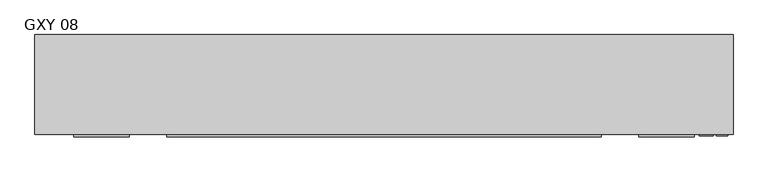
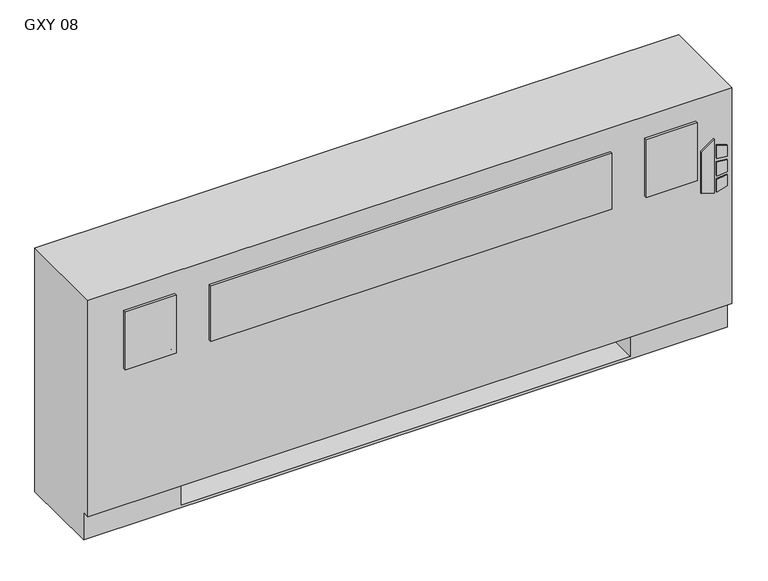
"""IFC4 building model written with IfcOpenShell, lengths in millimetres: proxy geometry, Vertical_Fan_Coil_Unit_-_GXY_-_IEC_-_2-Pipe_FS-FR_LH_2022 : GXY 08."""

from ifc_helpers import new_model, si_unit, point, frame, frame_2d, origin, place, context, project, spatial, polyline, circle_curve, trimmed, segment, composite_curve, outline, extrude, source, transform, mapped, element, save
from ifc_brep_helpers import plane_surface, revolved_surface, advanced_brep


def gxy_08_44ee7bc8(model_context):
    return source(origin(), model_context, "Body", "SolidModel", [
        extrude(outline(polyline([(391.6086829, 874.7868862), (381.6606126, 906.9602728), (523.831537, 906.9602728), (500.8095309, 874.7868862), (391.6086829, 874.7868862)])), frame((0.0, 12.7, 0.0), z_axis=(0.0, 1.0, 0.0), x_axis=(0.0, 0.0, 1.0)), (0.0, 0.0, 1.0), 3.175),
        extrude(outline(polyline([(470.6079683, 913.7186058), (467.4055757, 939.8), (496.6344168, 939.8), (504.6988318, 913.7186058), (470.6079683, 913.7186058)])), frame((0.0, 12.7, 0.0), z_axis=(0.0, 1.0, 0.0), x_axis=(0.0, 0.0, 1.0)), (0.0, 0.0, 1.0), 3.175),
        extrude(outline(polyline([(418.7444414, 939.8), (415.0789404, 913.7186058), (381.6606126, 913.7186058), (390.2948498, 939.8), (418.7444414, 939.8)])), frame((0.0, 12.7, 0.0), z_axis=(0.0, 1.0, 0.0), x_axis=(0.0, 0.0, 1.0)), (0.0, 0.0, 1.0), 3.175),
        extrude(outline(polyline([(458.0596028, 939.8), (460.3414292, 913.7186058), (424.4038806, 913.7186058), (427.1451456, 939.8), (458.0596028, 939.8)])), frame((0.0, 12.7, 0.0), z_axis=(0.0, 1.0, 0.0), x_axis=(0.0, 0.0, 1.0)), (0.0, 0.0, 1.0), 3.175),
        extrude(outline(polyline([(-431.8, 9.525), (-558.8, 9.525), (-558.8, 15.875), (-431.8, 15.875), (-431.8, 9.525)])), frame((0.0, 0.0, 431.8), z_axis=(0.0, 0.0, 1.0), x_axis=(1.0, 0.0, 0.0)), (0.0, 0.0, 1.0), 152.4),
        extrude(outline(polyline([(650.875, 9.525), (-346.075, 9.525), (-346.075, 15.875), (650.875, 15.875), (650.875, 9.525)])), frame((0.0, 0.0, 431.8), z_axis=(0.0, 0.0, 1.0), x_axis=(1.0, 0.0, 0.0)), (0.0, 0.0, 1.0), 146.05),
        extrude(outline(polyline([(863.6, 9.525), (736.6, 9.525), (736.6, 15.875), (863.6, 15.875), (863.6, 9.525)])), frame((0.0, 0.0, 431.8), z_axis=(0.0, 0.0, 1.0), x_axis=(1.0, 0.0, 0.0)), (0.0, 0.0, 1.0), 152.4),
        extrude(outline(polyline([(711.2, 81.534), (711.2, 223.266), (831.85, 223.266), (831.85, 81.534), (711.2, 81.534)])), frame((0.0, 0.0, 327.025), z_axis=(0.0, 0.0, 1.0), x_axis=(1.0, 0.0, 0.0)), (0.0, 0.0, 1.0), 260.35),
        extrude(outline(composite_curve([segment(trimmed(circle_curve(frame_2d((78.9432, 398.5514)), 7.9375), [point((78.9432, 406.4889))], [point((78.9432, 390.6139))], False, "CARTESIAN"), True, "CONTINUOUS"), segment(trimmed(circle_curve(frame_2d((78.9432, 398.5514)), 7.9375), [point((78.9432, 390.6139))], [point((78.9432, 406.4889))], False, "CARTESIAN"), True, "CONTINUOUS")], self_intersect=False)), frame((-457.2, 0.0, 0.0), z_axis=(1.0, 0.0, 0.0), x_axis=(0.0, 1.0, 0.0)), (0.0, 0.0, 1.0), 50.8),
        extrude(outline(composite_curve([segment(trimmed(circle_curve(frame_2d((155.9052, 537.3878)), 7.9375), [point((155.9052, 545.3253))], [point((155.9052, 529.4503))], False, "CARTESIAN"), True, "CONTINUOUS"), segment(trimmed(circle_curve(frame_2d((155.9052, 537.3878)), 7.9375), [point((155.9052, 529.4503))], [point((155.9052, 545.3253))], False, "CARTESIAN"), True, "CONTINUOUS")], self_intersect=False)), frame((-457.2, 0.0, 0.0), z_axis=(1.0, 0.0, 0.0), x_axis=(0.0, 1.0, 0.0)), (0.0, 0.0, 1.0), 50.8),
        advanced_brep(
        [(952.5, 244.475, 641.35), (-647.7, 244.475, 641.35), (-647.7, 15.875, 641.35), (952.5, 15.875, 641.35), (-647.7, 244.475, 0.0), (952.5, 244.475, 0.0), (952.5, 34.925, 0.0), (-647.7, 34.925, 0.0), (711.2, 244.475, 73.025), (939.8, 244.475, 73.025), (939.8, 244.475, 628.65), (711.2, 244.475, 628.65), (711.2, 244.475, 418.0400565), (739.775, 244.475, 418.0400565), (739.775, 244.475, 388.4099435), (711.2, 244.475, 388.4099435), (711.2, 244.475, 290.5125), (739.775, 244.475, 290.5125), (739.775, 244.475, 261.9375), (711.2, 244.475, 261.9375), (711.2, 244.475, 119.0625), (739.775, 244.475, 119.0625), (739.775, 244.475, 90.4875), (711.2, 244.475, 90.4875), (-406.4, 244.475, 628.65), (-635.0, 244.475, 628.65), (-635.0, 244.475, 73.025), (-406.4, 244.475, 73.025), (-406.4, 244.475, 90.4875), (-434.975, 244.475, 90.4875), (-434.975, 244.475, 119.0625), (-406.4, 244.475, 119.0625), (-406.4, 244.475, 261.9375), (-434.975, 244.475, 261.9375), (-434.975, 244.475, 290.5125), (-406.4, 244.475, 290.5125), (-406.4, 244.475, 388.4099435), (-434.975, 244.475, 388.4099435), (-434.975, 244.475, 418.0400565), (-406.4, 244.475, 418.0400565), (729.4626, 244.475, 104.775), (718.3374, 244.475, 104.775), (729.4626, 244.475, 403.225), (718.3374, 244.475, 403.225), (729.4626, 244.475, 276.225), (718.3374, 244.475, 276.225), (-413.5374, 244.475, 104.775), (-424.6626, 244.475, 104.775), (-413.5374, 244.475, 276.225), (-424.6626, 244.475, 276.225), (-413.5374, 244.475, 403.225), (-424.6626, 244.475, 403.225), (-647.7, 34.925, 73.025), (-647.7, 15.875, 73.025), (952.5, 15.875, 73.025), (952.5, 34.925, 73.025), (-406.4, 34.925, 73.025), (-406.4, 219.075, 73.025), (711.2, 219.075, 73.025), (711.2, 34.925, 73.025), (711.2, 34.925, 6.35), (-406.4, 34.925, 6.35), (711.2, 41.275, 628.65), (939.8, 41.275, 628.65), (939.8, 41.275, 73.025), (711.2, 41.275, 73.025), (-406.4, 41.275, 628.65), (-406.4, 41.275, 73.025), (-635.0, 41.275, 73.025), (-635.0, 41.275, 628.65), (711.2, 219.075, 73.025), (711.2, 238.125, 90.4875), (711.2, 238.125, 119.0625), (711.2, 238.125, 261.9375), (711.2, 238.125, 290.5125), (711.2, 238.125, 388.4099435), (711.2, 238.125, 418.0400565), (-406.4, 219.075, 73.025), (-406.4, 238.125, 418.0400565), (-406.4, 238.125, 388.4099435), (-406.4, 238.125, 290.5125), (-406.4, 238.125, 261.9375), (-406.4, 238.125, 119.0625), (-406.4, 238.125, 90.4875), (-406.4, 219.075, 6.35), (711.2, 219.075, 6.35), (739.775, 238.125, 90.4875), (739.775, 238.125, 119.0625), (718.3374, 238.125, 104.775), (729.4626, 238.125, 104.775), (739.775, 238.125, 261.9375), (739.775, 238.125, 290.5125), (718.3374, 238.125, 276.225), (729.4626, 238.125, 276.225), (739.775, 238.125, 388.4099435), (739.775, 238.125, 418.0400565), (718.3374, 238.125, 403.225), (729.4626, 238.125, 403.225), (-434.975, 238.125, 119.0625), (-434.975, 238.125, 90.4875), (-424.6626, 238.125, 104.775), (-413.5374, 238.125, 104.775), (-434.975, 238.125, 290.5125), (-434.975, 238.125, 261.9375), (-424.6626, 238.125, 276.225), (-413.5374, 238.125, 276.225), (-434.975, 238.125, 418.0400565), (-434.975, 238.125, 388.4099435), (-424.6626, 238.125, 403.225), (-413.5374, 238.125, 403.225)],
        [
            (0, 1),
            (1, 2),
            (2, 3),
            (3, 0),
            (4, 5),
            (5, 6),
            (6, 7),
            (7, 4),
            (0, 5),
            (4, 1),
            (8, 9),
            (9, 10),
            (10, 11),
            (11, 12),
            (12, 13),
            (13, 14),
            (14, 15),
            (15, 16),
            (16, 17),
            (17, 18),
            (18, 19),
            (19, 20),
            (20, 21),
            (21, 22),
            (22, 23),
            (23, 8),
            (24, 25),
            (25, 26),
            (26, 27),
            (27, 28),
            (28, 29),
            (29, 30),
            (30, 31),
            (31, 32),
            (32, 33),
            (33, 34),
            (34, 35),
            (35, 36),
            (36, 37),
            (37, 38),
            (38, 39),
            (39, 24),
            (40, 41, circle_curve(frame((723.9, 244.475, 104.775), z_axis=(0.0, -1.0, 0.0), x_axis=(-1.0, 0.0, 0.0)), 5.5626)),
            (41, 40, circle_curve(frame((723.9, 244.475, 104.775), z_axis=(0.0, -1.0, 0.0), x_axis=(-1.0, 0.0, 0.0)), 5.5626)),
            (42, 43, circle_curve(frame((723.9, 244.475, 403.225), z_axis=(0.0, -1.0, 0.0), x_axis=(-1.0, 0.0, 0.0)), 5.5626)),
            (43, 42, circle_curve(frame((723.9, 244.475, 403.225), z_axis=(0.0, -1.0, 0.0), x_axis=(-1.0, 0.0, 0.0)), 5.5626)),
            (44, 45, circle_curve(frame((723.9, 244.475, 276.225), z_axis=(0.0, -1.0, 0.0), x_axis=(-1.0, 0.0, 0.0)), 5.5626)),
            (45, 44, circle_curve(frame((723.9, 244.475, 276.225), z_axis=(0.0, -1.0, 0.0), x_axis=(-1.0, 0.0, 0.0)), 5.5626)),
            (46, 47, circle_curve(frame((-419.1, 244.475, 104.775), z_axis=(0.0, -1.0, 0.0), x_axis=(-1.0, 0.0, 0.0)), 5.5626)),
            (47, 46, circle_curve(frame((-419.1, 244.475, 104.775), z_axis=(0.0, -1.0, 0.0), x_axis=(-1.0, 0.0, 0.0)), 5.5626)),
            (48, 49, circle_curve(frame((-419.1, 244.475, 276.225), z_axis=(0.0, -1.0, 0.0), x_axis=(-1.0, 0.0, 0.0)), 5.5626)),
            (49, 48, circle_curve(frame((-419.1, 244.475, 276.225), z_axis=(0.0, -1.0, 0.0), x_axis=(-1.0, 0.0, 0.0)), 5.5626)),
            (50, 51, circle_curve(frame((-419.1, 244.475, 403.225), z_axis=(0.0, -1.0, 0.0), x_axis=(-1.0, 0.0, 0.0)), 5.5626)),
            (51, 50, circle_curve(frame((-419.1, 244.475, 403.225), z_axis=(0.0, -1.0, 0.0), x_axis=(-1.0, 0.0, 0.0)), 5.5626)),
            (7, 52),
            (52, 53),
            (53, 2),
            (53, 54),
            (54, 3),
            (54, 55),
            (55, 6),
            (52, 56),
            (56, 57),
            (57, 58),
            (58, 59),
            (59, 55),
            (59, 60),
            (60, 61),
            (61, 56),
            (62, 63),
            (63, 64),
            (64, 65),
            (65, 62),
            (66, 67),
            (67, 68),
            (68, 69),
            (69, 66),
            (65, 70),
            (70, 8),
            (23, 71),
            (71, 72),
            (72, 20),
            (19, 73),
            (73, 74),
            (74, 16),
            (15, 75),
            (75, 76),
            (76, 12),
            (11, 62),
            (64, 9),
            (63, 10),
            (69, 25),
            (24, 66),
            (68, 26),
            (67, 77),
            (77, 27),
            (39, 78),
            (78, 79),
            (79, 36),
            (35, 80),
            (80, 81),
            (81, 32),
            (31, 82),
            (82, 83),
            (83, 28),
            (57, 84),
            (84, 85),
            (85, 58),
            (85, 60),
            (84, 61),
            (71, 86),
            (86, 87),
            (87, 72),
            (88, 89, circle_curve(frame((723.9, 238.125, 104.775), z_axis=(0.0, 1.0, 0.0), x_axis=(-1.0, 0.0, 0.0)), 5.5626)),
            (89, 88, circle_curve(frame((723.9, 238.125, 104.775), z_axis=(0.0, 1.0, 0.0), x_axis=(-1.0, 0.0, 0.0)), 5.5626)),
            (73, 90),
            (90, 91),
            (91, 74),
            (92, 93, circle_curve(frame((723.9, 238.125, 276.225), z_axis=(0.0, 1.0, 0.0), x_axis=(-1.0, 0.0, 0.0)), 5.5626)),
            (93, 92, circle_curve(frame((723.9, 238.125, 276.225), z_axis=(0.0, 1.0, 0.0), x_axis=(-1.0, 0.0, 0.0)), 5.5626)),
            (75, 94),
            (94, 95),
            (95, 76),
            (96, 97, circle_curve(frame((723.9, 238.125, 403.225), z_axis=(0.0, 1.0, 0.0), x_axis=(-1.0, 0.0, 0.0)), 5.5626)),
            (97, 96, circle_curve(frame((723.9, 238.125, 403.225), z_axis=(0.0, 1.0, 0.0), x_axis=(-1.0, 0.0, 0.0)), 5.5626)),
            (98, 99),
            (99, 83),
            (82, 98),
            (100, 101, circle_curve(frame((-419.1, 238.125, 104.775), z_axis=(0.0, 1.0, 0.0), x_axis=(-1.0, 0.0, 0.0)), 5.5626)),
            (101, 100, circle_curve(frame((-419.1, 238.125, 104.775), z_axis=(0.0, 1.0, 0.0), x_axis=(-1.0, 0.0, 0.0)), 5.5626)),
            (102, 103),
            (103, 81),
            (80, 102),
            (104, 105, circle_curve(frame((-419.1, 238.125, 276.225), z_axis=(0.0, 1.0, 0.0), x_axis=(-1.0, 0.0, 0.0)), 5.5626)),
            (105, 104, circle_curve(frame((-419.1, 238.125, 276.225), z_axis=(0.0, 1.0, 0.0), x_axis=(-1.0, 0.0, 0.0)), 5.5626)),
            (106, 107),
            (107, 79),
            (78, 106),
            (108, 109, circle_curve(frame((-419.1, 238.125, 403.225), z_axis=(0.0, 1.0, 0.0), x_axis=(-1.0, 0.0, 0.0)), 5.5626)),
            (109, 108, circle_curve(frame((-419.1, 238.125, 403.225), z_axis=(0.0, 1.0, 0.0), x_axis=(-1.0, 0.0, 0.0)), 5.5626)),
            (87, 21),
            (86, 22),
            (91, 17),
            (90, 18),
            (95, 13),
            (94, 14),
            (30, 98),
            (99, 29),
            (34, 102),
            (103, 33),
            (38, 106),
            (107, 37),
            (88, 41),
            (40, 89),
            (96, 43),
            (42, 97),
            (92, 45),
            (44, 93),
            (100, 47),
            (46, 101),
            (104, 49),
            (48, 105),
            (108, 51),
            (50, 109),
        ],
        [
            plane_surface(frame((-647.7, 244.475, 641.35), z_axis=(0.0, 0.0, 1.0), x_axis=(-1.0, 0.0, 0.0))),
            plane_surface(frame((-647.7, 244.475, 0.0), z_axis=(0.0, 0.0, -1.0), x_axis=(1.0, 0.0, 0.0))),
            plane_surface(frame((952.5, 244.475, 641.35), z_axis=(0.0, 1.0, 0.0), x_axis=(0.0, 0.0, -1.0))),
            plane_surface(frame((-647.7, 244.475, 641.35), z_axis=(-1.0, 0.0, 0.0), x_axis=(0.0, 0.0, -1.0))),
            plane_surface(frame((-647.7, 15.875, 641.35), z_axis=(0.0, -1.0, 0.0), x_axis=(0.0, 0.0, -1.0))),
            plane_surface(frame((952.5, 15.875, 641.35), z_axis=(1.0, 0.0, 0.0), x_axis=(0.0, 0.0, -1.0))),
            plane_surface(frame((-647.7, 15.875, 73.025), z_axis=(0.0, 0.0, -1.0), x_axis=(1.0, 0.0, 0.0))),
            plane_surface(frame((-647.7, 34.925, 73.025), z_axis=(0.0, -1.0, 0.0), x_axis=(1.0, 0.0, 0.0))),
            plane_surface(frame((711.2, 41.275, 628.65), z_axis=(0.0, 1.0, 0.0), x_axis=(0.0, 0.0, -1.0))),
            plane_surface(frame((711.2, 41.275, 628.65), z_axis=(1.0, 0.0, 0.0), x_axis=(0.0, 1.0, 0.0))),
            plane_surface(frame((711.2, 41.275, 73.025), z_axis=(0.0, 0.0, 1.0), x_axis=(0.0, 1.0, 0.0))),
            plane_surface(frame((939.8, 41.275, 73.025), z_axis=(-1.0, 0.0, 0.0), x_axis=(0.0, 1.0, 0.0))),
            plane_surface(frame((939.8, 41.275, 628.65), z_axis=(0.0, 0.0, -1.0), x_axis=(0.0, 1.0, 0.0))),
            plane_surface(frame((-406.4, 41.275, 628.65), z_axis=(0.0, 0.0, -1.0), x_axis=(0.0, 1.0, 0.0))),
            plane_surface(frame((-635.0, 41.275, 628.65), z_axis=(1.0, 0.0, 0.0), x_axis=(0.0, 1.0, 0.0))),
            plane_surface(frame((-635.0, 41.275, 73.025), z_axis=(0.0, 0.0, 1.0), x_axis=(0.0, 1.0, 0.0))),
            plane_surface(frame((-406.4, 41.275, 73.025), z_axis=(-1.0, 0.0, 0.0), x_axis=(0.0, 1.0, 0.0))),
            plane_surface(frame((711.2, 219.075, 73.025), z_axis=(0.0, -1.0, 0.0), x_axis=(0.0, 0.0, -1.0))),
            plane_surface(frame((711.2, 219.075, 73.025), z_axis=(-1.0, 0.0, 0.0), x_axis=(0.0, -1.0, 0.0))),
            plane_surface(frame((711.2, 219.075, 6.35), z_axis=(0.0, 0.0, 1.0), x_axis=(0.0, -1.0, 0.0))),
            plane_surface(frame((-406.4, 219.075, 6.35), z_axis=(1.0, 0.0, 0.0), x_axis=(0.0, -1.0, 0.0))),
            plane_surface(frame((739.775, 238.125, 119.0625), z_axis=(0.0, -1.0, 0.0), x_axis=(-1.0, 0.0, 0.0))),
            plane_surface(frame((711.2, 244.475, 119.0625), z_axis=(0.0, 0.0, 1.0), x_axis=(0.0, -1.0, 0.0))),
            plane_surface(frame((739.775, 244.475, 119.0625), z_axis=(1.0, 0.0, 0.0), x_axis=(0.0, -1.0, 0.0))),
            plane_surface(frame((739.775, 244.475, 90.4875), z_axis=(0.0, 0.0, -1.0), x_axis=(0.0, -1.0, 0.0))),
            plane_surface(frame((711.2, 244.475, 290.5125), z_axis=(0.0, 0.0, 1.0), x_axis=(0.0, -1.0, 0.0))),
            plane_surface(frame((739.775, 244.475, 290.5125), z_axis=(1.0, 0.0, 0.0), x_axis=(0.0, -1.0, 0.0))),
            plane_surface(frame((739.775, 244.475, 261.9375), z_axis=(0.0, 0.0, -1.0), x_axis=(0.0, -1.0, 0.0))),
            plane_surface(frame((711.2, 244.475, 418.0400565), z_axis=(0.0, 0.0, 1.0), x_axis=(0.0, -1.0, 0.0))),
            plane_surface(frame((739.775, 244.475, 418.0400565), z_axis=(1.0, 0.0, 0.0), x_axis=(0.0, -1.0, 0.0))),
            plane_surface(frame((739.775, 244.475, 388.4099435), z_axis=(0.0, 0.0, -1.0), x_axis=(0.0, -1.0, 0.0))),
            plane_surface(frame((-434.975, 244.475, 119.0625), z_axis=(0.0, 0.0, 1.0), x_axis=(0.0, -1.0, 0.0))),
            plane_surface(frame((-406.4, 244.475, 90.4875), z_axis=(0.0, 0.0, -1.0), x_axis=(0.0, -1.0, 0.0))),
            plane_surface(frame((-434.975, 244.475, 90.4875), z_axis=(-1.0, 0.0, 0.0), x_axis=(0.0, -1.0, 0.0))),
            plane_surface(frame((-434.975, 244.475, 290.5125), z_axis=(0.0, 0.0, 1.0), x_axis=(0.0, -1.0, 0.0))),
            plane_surface(frame((-406.4, 244.475, 261.9375), z_axis=(0.0, 0.0, -1.0), x_axis=(0.0, -1.0, 0.0))),
            plane_surface(frame((-434.975, 244.475, 261.9375), z_axis=(-1.0, 0.0, 0.0), x_axis=(0.0, -1.0, 0.0))),
            plane_surface(frame((-434.975, 244.475, 418.0400565), z_axis=(0.0, 0.0, 1.0), x_axis=(0.0, -1.0, 0.0))),
            plane_surface(frame((-406.4, 244.475, 388.4099435), z_axis=(0.0, 0.0, -1.0), x_axis=(0.0, -1.0, 0.0))),
            plane_surface(frame((-434.975, 244.475, 388.4099435), z_axis=(-1.0, 0.0, 0.0), x_axis=(0.0, -1.0, 0.0))),
            revolved_surface(polyline([(718.3374, 238.125, 104.775), (718.3374, 244.475, 104.775)]), (723.9, 244.475, 104.775), (0.0, -1.0, 0.0)),
            revolved_surface(polyline([(718.3374, 238.125, 403.225), (718.3374, 244.475, 403.225)]), (723.9, 244.475, 403.225), (0.0, -1.0, 0.0)),
            revolved_surface(polyline([(718.3374, 238.125, 276.225), (718.3374, 244.475, 276.225)]), (723.9, 244.475, 276.225), (0.0, -1.0, 0.0)),
            revolved_surface(polyline([(-424.6626, 238.125, 104.775), (-424.6626, 244.475, 104.775)]), (-419.1, 244.475, 104.775), (0.0, -1.0, 0.0)),
            revolved_surface(polyline([(-424.6626, 238.125, 276.225), (-424.6626, 244.475, 276.225)]), (-419.1, 244.475, 276.225), (0.0, -1.0, 0.0)),
            revolved_surface(polyline([(-424.6626, 238.125, 403.225), (-424.6626, 244.475, 403.225)]), (-419.1, 244.475, 403.225), (0.0, -1.0, 0.0)),
        ],
        [
            (0, [[1, 2, 3, 4]]),
            (1, [[5, 6, 7, 8]]),
            (2, [[-1, 9, -5, 10], [11, 12, 13, 14, 15, 16, 17, 18, 19, 20, 21, 22, 23, 24, 25, 26], [27, 28, 29, 30, 31, 32, 33, 34, 35, 36, 37, 38, 39, 40, 41, 42], [43, 44], [45, 46], [47, 48], [49, 50], [51, 52], [53, 54]]),
            (3, [[-2, -10, -8, 55, 56, 57]]),
            (4, [[-3, -57, 58, 59]]),
            (5, [[-4, -59, 60, 61, -6, -9]]),
            (6, [[-56, 62, 63, 64, 65, 66, -60, -58]]),
            (7, [[-7, -61, -66, 67, 68, 69, -62, -55]]),
            (8, [[70, 71, 72, 73]]),
            (8, [[74, 75, 76, 77]]),
            (9, [[-73, 78, 79, -26, 80, 81, 82, -22, 83, 84, 85, -18, 86, 87, 88, -14, 89]]),
            (10, [[-72, 90, -11, -79, -78]]),
            (11, [[-71, 91, -12, -90]]),
            (12, [[-70, -89, -13, -91]]),
            (13, [[-77, 92, -27, 93]]),
            (14, [[-76, 94, -28, -92]]),
            (15, [[-75, 95, 96, -29, -94]]),
            (16, [[-74, -93, -42, 97, 98, 99, -38, 100, 101, 102, -34, 103, 104, 105, -30, -96, -95]]),
            (17, [[-64, 106, 107, 108]]),
            (18, [[-108, 109, -67, -65]]),
            (19, [[-107, 110, -68, -109]]),
            (20, [[-106, -63, -69, -110]]),
            (21, [[111, 112, 113, -81], [114, 115]]),
            (21, [[116, 117, 118, -84], [119, 120]]),
            (21, [[121, 122, 123, -87], [124, 125]]),
            (21, [[126, 127, -104, 128], [129, 130]]),
            (21, [[131, 132, -101, 133], [134, 135]]),
            (21, [[136, 137, -98, 138], [139, 140]]),
            (22, [[-113, 141, -23, -82]]),
            (23, [[-112, 142, -24, -141]]),
            (24, [[-111, -80, -25, -142]]),
            (25, [[-118, 143, -19, -85]]),
            (26, [[-117, 144, -20, -143]]),
            (27, [[-116, -83, -21, -144]]),
            (28, [[-123, 145, -15, -88]]),
            (29, [[-122, 146, -16, -145]]),
            (30, [[-121, -86, -17, -146]]),
            (31, [[-128, -103, -33, 147]]),
            (32, [[-127, 148, -31, -105]]),
            (33, [[-126, -147, -32, -148]]),
            (34, [[-133, -100, -37, 149]]),
            (35, [[-132, 150, -35, -102]]),
            (36, [[-131, -149, -36, -150]]),
            (37, [[-138, -97, -41, 151]]),
            (38, [[-137, 152, -39, -99]]),
            (39, [[-136, -151, -40, -152]]),
            (40, [[153, -43, 154, -114]]),
            (40, [[-153, -115, -154, -44]]),
            (41, [[155, -45, 156, -124]]),
            (41, [[-155, -125, -156, -46]]),
            (42, [[157, -47, 158, -119]]),
            (42, [[-157, -120, -158, -48]]),
            (43, [[159, -49, 160, -129]]),
            (43, [[-159, -130, -160, -50]]),
            (44, [[161, -51, 162, -134]]),
            (44, [[-161, -135, -162, -52]]),
            (45, [[163, -53, 164, -139]]),
            (45, [[-163, -140, -164, -54]]),
        ],
    ),
    ])


if __name__ == "__main__":
    model = new_model("IFC4")
    model_context = context("Model", 3, world=origin())
    ifc_project = project(units=[si_unit("LENGTHUNIT", "METRE", prefix="MILLI")], contexts=[model_context])
    site = spatial("IfcSite", under=ifc_project)
    building = spatial("IfcBuilding", under=site)
    placement = place(None, origin())
    gxy_08_shape = gxy_08_44ee7bc8(model_context)
    element("IfcBuildingElementProxy", 1, Name="Vertical_Fan_Coil_Unit_-_GXY_-_IEC_-_2-Pipe_FS-FR_LH_2022 : GXY 08", ObjectType="Vertical_Fan_Coil_Unit_-_GXY_-_IEC_-_2-Pipe_FS-FR_LH_2022 : GXY 08", at=placement, inside=building, context=model_context, shape_type="MappedRepresentation", body=[
        mapped(gxy_08_shape, transform((0.0, 0.0, 0.0), x_axis=(1.0, 0.0, 0.0), y_axis=(0.0, 1.0, 0.0), z_axis=(0.0, 0.0, 1.0))),
    ])
    save(model, "model.ifc")
